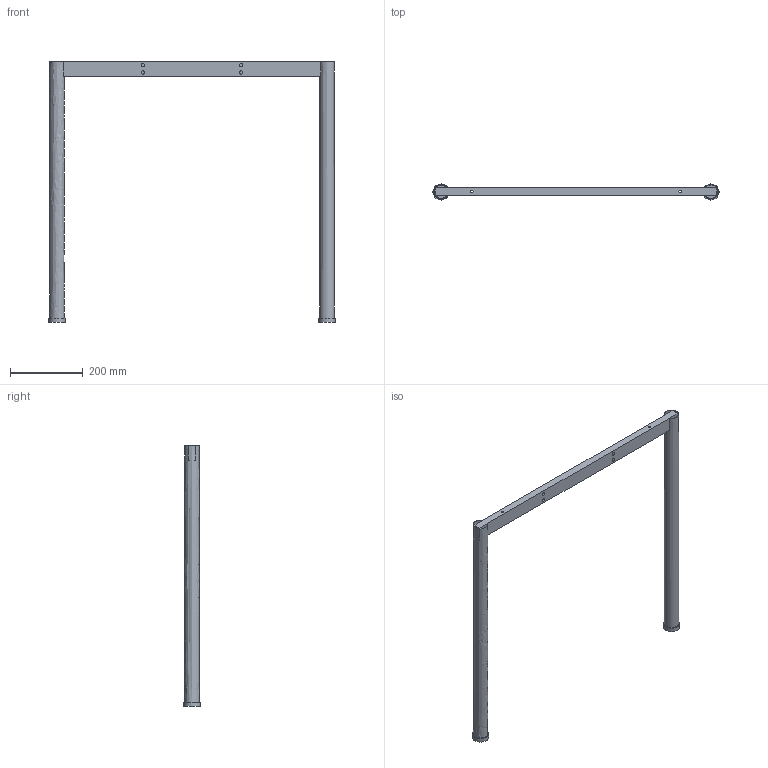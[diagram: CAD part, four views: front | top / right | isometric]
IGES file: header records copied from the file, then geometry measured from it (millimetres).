
Start section: Data from Parasolid IGES Translator 20.0.26, Copyright(c) 2006 Siemens P LM Software. All Rights Reserved.
Global section: file name: 45976.igs; native system: By Siemens PLM Incorporated; preprocessor: XPlus GENERIC/IGES 20.0.26; author: Noname; organization: Noname; date: 20210125.172852; units: millimetre
Bounding box: 784 x 44 x 715 mm (x, y, z)
Surface area: 447157.3 mm2 (no closed solid volume)
Topology: 0 solids, 0 shells, 34 faces, 144 edges, 134 vertices
Faces by surface type: extrusion 22, revolution 12
